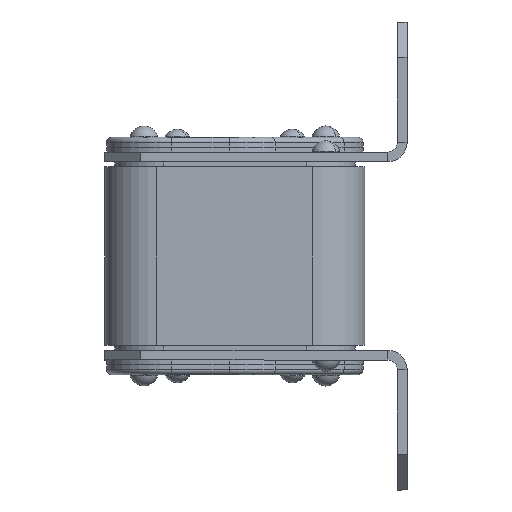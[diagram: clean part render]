
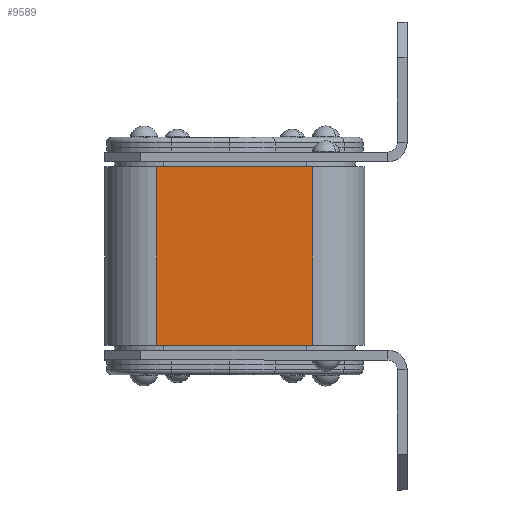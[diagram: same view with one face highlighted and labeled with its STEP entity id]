
A CAD part, left-side view. The second image highlights one B-rep face of the part: STEP entity #9589.
In plain terms, the highlighted planar face has unit normal (-1, 0, 0).
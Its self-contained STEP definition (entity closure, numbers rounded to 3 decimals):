
#75 = ORIENTED_EDGE ( 'NONE', *, *, #16377, .T. ) ;
#551 = VERTEX_POINT ( 'NONE', #17507 ) ;
#1642 = DIRECTION ( 'NONE',  ( 0., 0., 1. ) ) ;
#2073 = VECTOR ( 'NONE', #18575, 1000. ) ;
#3176 = LINE ( 'NONE', #4303, #10359 ) ;
#3318 = DIRECTION ( 'NONE',  ( 0., 0., -1. ) ) ;
#3791 = ORIENTED_EDGE ( 'NONE', *, *, #10633, .F. ) ;
#4037 = VECTOR ( 'NONE', #5445, 1000. ) ;
#4089 = VERTEX_POINT ( 'NONE', #23247 ) ;
#4303 = CARTESIAN_POINT ( 'NONE',  ( -69.514, -22.958, -27.5 ) ) ;
#5445 = DIRECTION ( 'NONE',  ( 0., -1., 0. ) ) ;
#5882 = DIRECTION ( 'NONE',  ( -1., 0., 0. ) ) ;
#6464 = EDGE_CURVE ( 'NONE', #16898, #551, #20124, .T. ) ;
#9589 = ADVANCED_FACE ( 'NONE', ( #16489 ), #12628, .T. ) ;
#10359 = VECTOR ( 'NONE', #20672, 1000. ) ;
#10625 = CARTESIAN_POINT ( 'NONE',  ( -69.514, 25.042, -27.5 ) ) ;
#10633 = EDGE_CURVE ( 'NONE', #20821, #4089, #23539, .T. ) ;
#10781 = CARTESIAN_POINT ( 'NONE',  ( -69.514, -38.958, -27.5 ) ) ;
#11455 = CARTESIAN_POINT ( 'NONE',  ( -69.514, -38.958, -27.5 ) ) ;
#12024 = ORIENTED_EDGE ( 'NONE', *, *, #6464, .T. ) ;
#12628 = PLANE ( 'NONE',  #16744 ) ;
#14570 = CARTESIAN_POINT ( 'NONE',  ( -69.514, -38.958, 27.5 ) ) ;
#15076 = CARTESIAN_POINT ( 'NONE',  ( -69.514, 25.042, 27.5 ) ) ;
#16377 = EDGE_CURVE ( 'NONE', #20821, #16898, #22425, .T. ) ;
#16489 = FACE_OUTER_BOUND ( 'NONE', #21543, .T. ) ;
#16744 = AXIS2_PLACEMENT_3D ( 'NONE', #10781, #5882, #1642 ) ;
#16898 = VERTEX_POINT ( 'NONE', #21391 ) ;
#16954 = VECTOR ( 'NONE', #3318, 1000. ) ;
#17507 = CARTESIAN_POINT ( 'NONE',  ( -69.514, -22.958, -27.5 ) ) ;
#18241 = ORIENTED_EDGE ( 'NONE', *, *, #23124, .T. ) ;
#18575 = DIRECTION ( 'NONE',  ( 0., -1., 0. ) ) ;
#20124 = LINE ( 'NONE', #11455, #2073 ) ;
#20672 = DIRECTION ( 'NONE',  ( 0., 0., 1. ) ) ;
#20821 = VERTEX_POINT ( 'NONE', #15076 ) ;
#21391 = CARTESIAN_POINT ( 'NONE',  ( -69.514, 25.042, -27.5 ) ) ;
#21543 = EDGE_LOOP ( 'NONE', ( #12024, #18241, #3791, #75 ) ) ;
#22425 = LINE ( 'NONE', #10625, #16954 ) ;
#23124 = EDGE_CURVE ( 'NONE', #551, #4089, #3176, .T. ) ;
#23247 = CARTESIAN_POINT ( 'NONE',  ( -69.514, -22.958, 27.5 ) ) ;
#23539 = LINE ( 'NONE', #14570, #4037 ) ;
